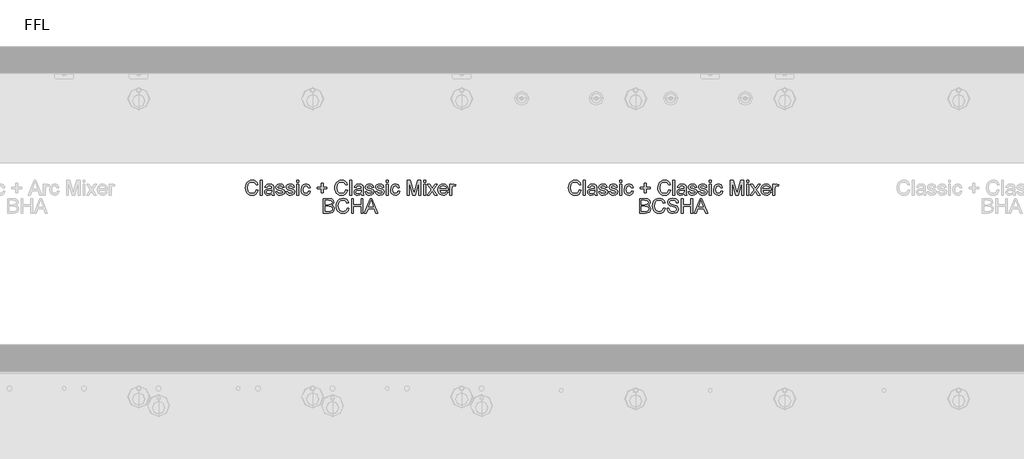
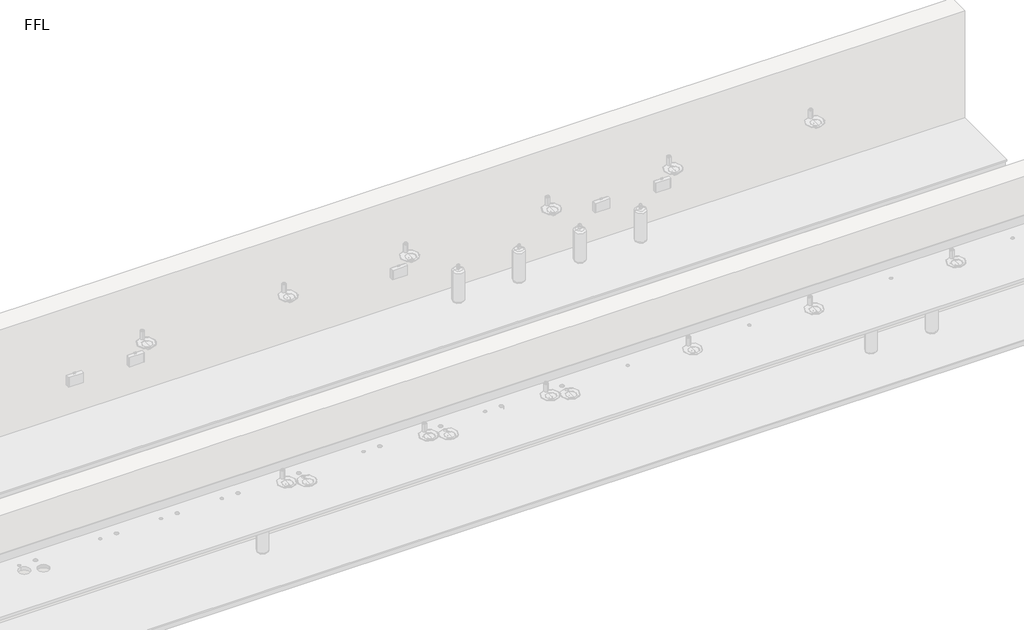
# One storey, part 10 of 13: 2 proxies.
"""IFC4 building model written with IfcOpenShell, lengths in millimetres."""

from ifc_helpers import new_model, si_unit, origin, origin_with_axes, place, context, project, spatial, polyline, outline, extrude, element, save

model = new_model("IFC4")

# Units and contexts
model_context = context("Model", 3, world=origin())
ifc_project = project(units=[si_unit("LENGTHUNIT", "METRE", prefix="MILLI")], contexts=[model_context])

# Site, building, storey
site = spatial("IfcSite", under=ifc_project)
building = spatial("IfcBuilding", under=site)
storey = spatial("IfcBuildingStorey", under=building, Name="FFL", Elevation=0.0)

# Proxies
placement = place(None, origin())
element("IfcBuildingElementProxy", 1, Name="150mm Arial", ObjectType="150mm Arial", at=placement, inside=storey, context=model_context, shape_type="SweptSolid", body=[
    extrude(outline(polyline([(3463.7273303, 3676.3018309), (3482.1888688, 3671.5422155), (3473.670239, 3650.0292948), (3460.3018496, 3634.3126482), (3442.7417534, 3624.698766), (3421.6480034, 3621.4941386), (3400.2342414, 3623.9190184), (3383.2285323, 3631.1936578), (3370.1936765, 3643.065653), (3360.6924746, 3659.2826001), (3354.8916933, 3678.3481049), (3352.9580996, 3698.7657732), (3355.1440972, 3720.3012299), (3361.70209, 3738.8979847), (3372.2895299, 3753.9655929), (3386.5638688, 3764.9136097), (3403.4929553, 3771.5797756), (3422.044638, 3773.8018309), (3442.286525, 3770.9262299), (3459.0218015, 3762.299427), (3471.7276308, 3748.4532732), (3479.8811765, 3729.9196193), (3461.419638, 3725.5205809), (3455.0193976, 3738.9836217), (3446.2754073, 3748.2188982), (3435.0794938, 3753.5599439), (3421.3234842, 3755.3402924), (3405.467114, 3753.3661338), (3392.4412726, 3747.4436578), (3382.5569577, 3738.1948597), (3376.1251669, 3726.2417347), (3371.419638, 3698.8018309), (3376.9905515, 3666.9989463), (3384.1119457, 3655.1224439), (3394.3343015, 3646.6804367), (3406.5894097, 3641.6368669), (3419.8090611, 3639.955677), (3435.2192174, 3642.2453405), (3448.060263, 3649.1143309), (3457.755275, 3660.4905328), (3463.7273303, 3676.3018309)])), origin_with_axes(), (0.0, 0.0, 1.0), 5.0),
    extrude(outline(polyline([(3505.2657919, 3623.8018309), (3505.2657919, 3771.4941386), (3523.7273303, 3771.4941386), (3523.7273303, 3623.8018309), (3505.2657919, 3623.8018309)])), origin_with_axes(), (0.0, 0.0, 1.0), 5.0),
    extrude(outline(polyline([(3620.6504073, 3637.6479847), (3602.747763, 3625.1359655), (3582.9701188, 3621.4941386), (3567.5419337, 3623.6846434), (3556.1612246, 3630.2561578), (3549.1434962, 3640.2351242), (3546.8042534, 3652.6479847), (3550.3379073, 3667.2513501), (3559.622763, 3677.8523117), (3572.5494457, 3683.910004), (3588.5230034, 3686.6864463), (3620.5422342, 3693.0326001), (3620.6504073, 3697.143177), (3619.3793736, 3705.3823597), (3615.5662726, 3710.7729847), (3607.0386284, 3714.7753886), (3595.1576188, 3716.1095232), (3576.4797342, 3712.5578405), (3567.5734842, 3699.955677), (3549.1119457, 3702.2633693), (3557.0987246, 3720.2922155), (3573.1804553, 3730.8571193), (3597.5374265, 3734.5710617), (3619.9112246, 3731.2898117), (3632.5494457, 3723.050629), (3638.2105034, 3710.5205809), (3639.1119457, 3694.3667347), (3639.1119457, 3671.3979847), (3640.0494457, 3639.3246674), (3643.7273303, 3623.8018309), (3625.2657919, 3623.8018309), (3620.6504073, 3637.6479847)]), holes=[polyline([(3620.6504073, 3674.5710617), (3590.8667534, 3668.910004), (3574.98334, 3665.9172155), (3567.7898303, 3661.049427), (3565.2657919, 3653.9460617), (3570.76459, 3643.9580809), (3586.9004073, 3639.955677), (3605.5782919, 3644.3727443), (3617.6215611, 3655.0638501), (3620.5422342, 3669.3426963), (3620.6504073, 3674.5710617)])]), origin_with_axes(), (0.0, 0.0, 1.0), 5.0),
    extrude(outline(polyline([(3657.5734842, 3656.1095232), (3676.0350226, 3658.4172155), (3678.9466813, 3650.5205809), (3684.5806957, 3644.7152924), (3704.1600226, 3639.955677), (3722.982138, 3644.3186578), (3729.1119457, 3654.5590424), (3722.9460803, 3662.8523117), (3703.9436765, 3668.1167347), (3676.1431957, 3677.1491867), (3664.0097823, 3687.6960617), (3659.8811765, 3702.5878886), (3663.1984842, 3716.3438982), (3672.248965, 3726.8547155), (3683.9857438, 3732.3174559), (3699.8691573, 3734.5710617), (3722.3330996, 3730.9472636), (3736.6119457, 3721.1395713), (3742.9580996, 3704.5710617), (3724.4965611, 3702.2633693), (3717.5554553, 3712.4496674), (3701.311465, 3716.1095232), (3683.6431957, 3712.611927), (3678.342715, 3704.4628886), (3680.5422342, 3699.0902924), (3687.4292534, 3695.0157732), (3703.3306957, 3691.0854847), (3730.4280515, 3682.3955809), (3743.0121861, 3672.5518309), (3747.5734842, 3656.5061578), (3742.2189169, 3638.8378886), (3726.7681957, 3626.019379), (3703.9076188, 3621.4941386), (3685.2928351, 3623.675629), (3671.7080996, 3630.2201001), (3662.63959, 3641.0554367), (3657.5734842, 3656.1095232)])), origin_with_axes(), (0.0, 0.0, 1.0), 5.0),
    extrude(outline(polyline([(3761.419638, 3656.1095232), (3779.8811765, 3658.4172155), (3782.7928351, 3650.5205809), (3788.4268496, 3644.7152924), (3808.0061765, 3639.955677), (3826.8282919, 3644.3186578), (3832.9580996, 3654.5590424), (3826.7922342, 3662.8523117), (3807.7898303, 3668.1167347), (3779.9893496, 3677.1491867), (3767.8559361, 3687.6960617), (3763.7273303, 3702.5878886), (3767.044638, 3716.3438982), (3776.0951188, 3726.8547155), (3787.8318976, 3732.3174559), (3803.7153111, 3734.5710617), (3826.1792534, 3730.9472636), (3840.4580996, 3721.1395713), (3846.8042534, 3704.5710617), (3828.342715, 3702.2633693), (3821.4016092, 3712.4496674), (3805.1576188, 3716.1095232), (3787.4893496, 3712.611927), (3782.1888688, 3704.4628886), (3784.388388, 3699.0902924), (3791.2754073, 3695.0157732), (3807.1768496, 3691.0854847), (3834.2742053, 3682.3955809), (3846.85834, 3672.5518309), (3851.419638, 3656.5061578), (3846.0650707, 3638.8378886), (3830.6143496, 3626.019379), (3807.7537726, 3621.4941386), (3789.138989, 3623.675629), (3775.5542534, 3630.2201001), (3766.4857438, 3641.0554367), (3761.419638, 3656.1095232)])), origin_with_axes(), (0.0, 0.0, 1.0), 5.0),
    extrude(outline(polyline([(3872.1888688, 3623.8018309), (3872.1888688, 3732.2633693), (3890.6504073, 3732.2633693), (3890.6504073, 3623.8018309), (3872.1888688, 3623.8018309)])), origin_with_axes(), (0.0, 0.0, 1.0), 5.0),
    extrude(outline(polyline([(3872.1888688, 3753.0326001), (3872.1888688, 3771.4941386), (3890.6504073, 3771.4941386), (3890.6504073, 3753.0326001), (3872.1888688, 3753.0326001)])), origin_with_axes(), (0.0, 0.0, 1.0), 5.0),
    extrude(outline(polyline([(3987.5734842, 3663.0326001), (4006.0350226, 3660.7249078), (4000.8877871, 3644.3051362), (3991.2153111, 3631.8967828), (3977.9280515, 3624.0947996), (3961.936465, 3621.4941386), (3942.2985443, 3625.1224439), (3926.9424746, 3636.0073597), (3917.0311164, 3653.6711217), (3913.7273303, 3677.6359655), (3919.3703592, 3708.3030328), (3926.4917534, 3719.8009294), (3936.5698784, 3728.0085617), (3948.6266693, 3732.9304367), (3961.6840611, 3734.5710617), (3977.2835202, 3732.3174559), (3989.7549746, 3725.5566386), (3998.7017895, 3714.6491867), (4003.7273303, 3699.955677), (3985.2657919, 3697.6479847), (3976.70209, 3711.4761097), (3961.8282919, 3716.1095232), (3949.8977029, 3713.8288742), (3940.4280515, 3706.986927), (3934.2486645, 3695.2140905), (3932.1888688, 3678.1407732), (3934.2035924, 3660.8375881), (3940.247763, 3649.0241867), (3949.5461404, 3642.2228044), (3961.3234842, 3639.955677), (3970.8832799, 3641.3709415), (3978.7213207, 3645.6167347), (3984.4229433, 3652.8012299), (3987.5734842, 3663.0326001)])), origin_with_axes(), (0.0, 0.0, 1.0), 5.0),
    extrude(outline(polyline([(4116.8042534, 3646.878754), (4116.8042534, 3686.1095232), (4077.5734842, 3686.1095232), (4077.5734842, 3704.5710617), (4116.8042534, 3704.5710617), (4116.8042534, 3743.8018309), (4135.2657919, 3743.8018309), (4135.2657919, 3704.5710617), (4174.4965611, 3704.5710617), (4174.4965611, 3686.1095232), (4135.2657919, 3686.1095232), (4135.2657919, 3646.878754), (4116.8042534, 3646.878754)])), origin_with_axes(), (0.0, 0.0, 1.0), 5.0),
    extrude(outline(polyline([(4363.7273303, 3676.3018309), (4382.1888688, 3671.5422155), (4373.670239, 3650.0292948), (4360.3018496, 3634.3126482), (4342.7417534, 3624.698766), (4321.6480034, 3621.4941386), (4300.2342414, 3623.9190184), (4283.2285323, 3631.1936578), (4270.1936765, 3643.065653), (4260.6924746, 3659.2826001), (4254.8916933, 3678.3481049), (4252.9580996, 3698.7657732), (4255.1440972, 3720.3012299), (4261.70209, 3738.8979847), (4272.2895299, 3753.9655929), (4286.5638688, 3764.9136097), (4303.4929553, 3771.5797756), (4322.044638, 3773.8018309), (4342.286525, 3770.9262299), (4359.0218015, 3762.299427), (4371.7276308, 3748.4532732), (4379.8811765, 3729.9196193), (4361.419638, 3725.5205809), (4355.0193976, 3738.9836217), (4346.2754073, 3748.2188982), (4335.0794938, 3753.5599439), (4321.3234842, 3755.3402924), (4305.467114, 3753.3661338), (4292.4412726, 3747.4436578), (4282.5569577, 3738.1948597), (4276.1251669, 3726.2417347), (4271.419638, 3698.8018309), (4276.9905515, 3666.9989463), (4284.1119457, 3655.1224439), (4294.3343015, 3646.6804367), (4306.5894097, 3641.6368669), (4319.8090611, 3639.955677), (4335.2192174, 3642.2453405), (4348.060263, 3649.1143309), (4357.755275, 3660.4905328), (4363.7273303, 3676.3018309)])), origin_with_axes(), (0.0, 0.0, 1.0), 5.0),
    extrude(outline(polyline([(4405.2657919, 3623.8018309), (4405.2657919, 3771.4941386), (4423.7273303, 3771.4941386), (4423.7273303, 3623.8018309), (4405.2657919, 3623.8018309)])), origin_with_axes(), (0.0, 0.0, 1.0), 5.0),
    extrude(outline(polyline([(4520.6504073, 3637.6479847), (4502.747763, 3625.1359655), (4482.9701188, 3621.4941386), (4467.5419337, 3623.6846434), (4456.1612246, 3630.2561578), (4449.1434962, 3640.2351242), (4446.8042534, 3652.6479847), (4450.3379073, 3667.2513501), (4459.622763, 3677.8523117), (4472.5494457, 3683.910004), (4488.5230034, 3686.6864463), (4520.5422342, 3693.0326001), (4520.6504073, 3697.143177), (4519.3793736, 3705.3823597), (4515.5662726, 3710.7729847), (4507.0386284, 3714.7753886), (4495.1576188, 3716.1095232), (4476.4797342, 3712.5578405), (4467.5734842, 3699.955677), (4449.1119457, 3702.2633693), (4457.0987246, 3720.2922155), (4473.1804553, 3730.8571193), (4497.5374265, 3734.5710617), (4519.9112246, 3731.2898117), (4532.5494457, 3723.050629), (4538.2105034, 3710.5205809), (4539.1119457, 3694.3667347), (4539.1119457, 3671.3979847), (4540.0494457, 3639.3246674), (4543.7273303, 3623.8018309), (4525.2657919, 3623.8018309), (4520.6504073, 3637.6479847)]), holes=[polyline([(4520.6504073, 3674.5710617), (4490.8667534, 3668.910004), (4474.98334, 3665.9172155), (4467.7898303, 3661.049427), (4465.2657919, 3653.9460617), (4470.76459, 3643.9580809), (4486.9004073, 3639.955677), (4505.5782919, 3644.3727443), (4517.6215611, 3655.0638501), (4520.5422342, 3669.3426963), (4520.6504073, 3674.5710617)])]), origin_with_axes(), (0.0, 0.0, 1.0), 5.0),
    extrude(outline(polyline([(4557.5734842, 3656.1095232), (4576.0350226, 3658.4172155), (4578.9466813, 3650.5205809), (4584.5806957, 3644.7152924), (4604.1600226, 3639.955677), (4622.982138, 3644.3186578), (4629.1119457, 3654.5590424), (4622.9460803, 3662.8523117), (4603.9436765, 3668.1167347), (4576.1431957, 3677.1491867), (4564.0097823, 3687.6960617), (4559.8811765, 3702.5878886), (4563.1984842, 3716.3438982), (4572.248965, 3726.8547155), (4583.9857438, 3732.3174559), (4599.8691573, 3734.5710617), (4622.3330996, 3730.9472636), (4636.6119457, 3721.1395713), (4642.9580996, 3704.5710617), (4624.4965611, 3702.2633693), (4617.5554553, 3712.4496674), (4601.311465, 3716.1095232), (4583.6431957, 3712.611927), (4578.342715, 3704.4628886), (4580.5422342, 3699.0902924), (4587.4292534, 3695.0157732), (4603.3306957, 3691.0854847), (4630.4280515, 3682.3955809), (4643.0121861, 3672.5518309), (4647.5734842, 3656.5061578), (4642.2189169, 3638.8378886), (4626.7681957, 3626.019379), (4603.9076188, 3621.4941386), (4585.2928351, 3623.675629), (4571.7080996, 3630.2201001), (4562.63959, 3641.0554367), (4557.5734842, 3656.1095232)])), origin_with_axes(), (0.0, 0.0, 1.0), 5.0),
    extrude(outline(polyline([(4661.419638, 3656.1095232), (4679.8811765, 3658.4172155), (4682.7928351, 3650.5205809), (4688.4268496, 3644.7152924), (4708.0061765, 3639.955677), (4726.8282919, 3644.3186578), (4732.9580996, 3654.5590424), (4726.7922342, 3662.8523117), (4707.7898303, 3668.1167347), (4679.9893496, 3677.1491867), (4667.8559361, 3687.6960617), (4663.7273303, 3702.5878886), (4667.044638, 3716.3438982), (4676.0951188, 3726.8547155), (4687.8318976, 3732.3174559), (4703.7153111, 3734.5710617), (4726.1792534, 3730.9472636), (4740.4580996, 3721.1395713), (4746.8042534, 3704.5710617), (4728.342715, 3702.2633693), (4721.4016092, 3712.4496674), (4705.1576188, 3716.1095232), (4687.4893496, 3712.611927), (4682.1888688, 3704.4628886), (4684.388388, 3699.0902924), (4691.2754073, 3695.0157732), (4707.1768496, 3691.0854847), (4734.2742053, 3682.3955809), (4746.85834, 3672.5518309), (4751.419638, 3656.5061578), (4746.0650707, 3638.8378886), (4730.6143496, 3626.019379), (4707.7537726, 3621.4941386), (4689.138989, 3623.675629), (4675.5542534, 3630.2201001), (4666.4857438, 3641.0554367), (4661.419638, 3656.1095232)])), origin_with_axes(), (0.0, 0.0, 1.0), 5.0),
    extrude(outline(polyline([(4772.1888688, 3623.8018309), (4772.1888688, 3732.2633693), (4790.6504073, 3732.2633693), (4790.6504073, 3623.8018309), (4772.1888688, 3623.8018309)])), origin_with_axes(), (0.0, 0.0, 1.0), 5.0),
    extrude(outline(polyline([(4772.1888688, 3753.0326001), (4772.1888688, 3771.4941386), (4790.6504073, 3771.4941386), (4790.6504073, 3753.0326001), (4772.1888688, 3753.0326001)])), origin_with_axes(), (0.0, 0.0, 1.0), 5.0),
    extrude(outline(polyline([(4887.5734842, 3663.0326001), (4906.0350226, 3660.7249078), (4900.8877871, 3644.3051362), (4891.2153111, 3631.8967828), (4877.9280515, 3624.0947996), (4861.936465, 3621.4941386), (4842.2985443, 3625.1224439), (4826.9424746, 3636.0073597), (4817.0311164, 3653.6711217), (4813.7273303, 3677.6359655), (4819.3703592, 3708.3030328), (4826.4917534, 3719.8009294), (4836.5698784, 3728.0085617), (4848.6266693, 3732.9304367), (4861.6840611, 3734.5710617), (4877.2835202, 3732.3174559), (4889.7549746, 3725.5566386), (4898.7017895, 3714.6491867), (4903.7273303, 3699.955677), (4885.2657919, 3697.6479847), (4876.70209, 3711.4761097), (4861.8282919, 3716.1095232), (4849.8977029, 3713.8288742), (4840.4280515, 3706.986927), (4834.2486645, 3695.2140905), (4832.1888688, 3678.1407732), (4834.2035924, 3660.8375881), (4840.247763, 3649.0241867), (4849.5461404, 3642.2228044), (4861.3234842, 3639.955677), (4870.8832799, 3641.3709415), (4878.7213207, 3645.6167347), (4884.4229433, 3652.8012299), (4887.5734842, 3663.0326001)])), origin_with_axes(), (0.0, 0.0, 1.0), 5.0),
    extrude(outline(polyline([(4982.1888688, 3623.8018309), (4982.1888688, 3771.4941386), (5013.9556957, 3771.4941386), (5044.1720419, 3667.3955809), (5050.2657919, 3645.6527924), (5056.8643496, 3669.1984655), (5086.575888, 3771.4941386), (5118.342715, 3771.4941386), (5118.342715, 3623.8018309), (5099.8811765, 3623.8018309), (5099.8811765, 3753.0326001), (5062.7778111, 3623.8018309), (5037.7537726, 3623.8018309), (5000.6504073, 3753.0326001), (5000.6504073, 3623.8018309), (4982.1888688, 3623.8018309)])), origin_with_axes(), (0.0, 0.0, 1.0), 5.0),
    extrude(outline(polyline([(5148.342715, 3623.8018309), (5148.342715, 3732.2633693), (5166.8042534, 3732.2633693), (5166.8042534, 3623.8018309), (5148.342715, 3623.8018309)])), origin_with_axes(), (0.0, 0.0, 1.0), 5.0),
    extrude(outline(polyline([(5148.342715, 3753.0326001), (5148.342715, 3771.4941386), (5166.8042534, 3771.4941386), (5166.8042534, 3753.0326001), (5148.342715, 3753.0326001)])), origin_with_axes(), (0.0, 0.0, 1.0), 5.0),
    extrude(outline(polyline([(5182.9580996, 3623.8018309), (5222.405215, 3678.3210617), (5185.2657919, 3732.2633693), (5207.4773303, 3732.2633693), (5225.3980034, 3706.3018309), (5233.763388, 3694.0422155), (5241.0109842, 3704.066254), (5261.419638, 3732.2633693), (5283.6311765, 3732.2633693), (5244.6167534, 3678.3210617), (5282.1888688, 3623.8018309), (5259.9773303, 3623.8018309), (5237.3691573, 3656.5782732), (5233.2225226, 3662.5638501), (5205.169638, 3623.8018309), (5182.9580996, 3623.8018309)])), origin_with_axes(), (0.0, 0.0, 1.0), 5.0),
    extrude(outline(polyline([(5374.280215, 3656.1095232), (5392.3811765, 3653.8018309), (5385.8592414, 3640.1630088), (5375.45209, 3629.9676963), (5361.3940972, 3623.612528), (5343.919638, 3621.4941386), (5322.2579794, 3625.1494871), (5305.5903111, 3636.1155328), (5294.9623063, 3653.6801362), (5291.419638, 3677.1311578), (5294.998364, 3701.3709415), (5305.7345419, 3719.4989463), (5322.1768496, 3730.8030328), (5342.873965, 3734.5710617), (5362.9265491, 3730.8120472), (5378.9496861, 3719.535004), (5389.4559962, 3701.4430568), (5392.9580996, 3677.2393309), (5392.8499265, 3672.2633693), (5309.8811765, 3672.2633693), (5313.0767895, 3658.4442588), (5320.5001669, 3648.285004), (5331.2138087, 3642.0380088), (5344.280215, 3639.955677), (5362.3811765, 3643.8138501), (5374.280215, 3656.1095232)]), holes=[polyline([(5309.8811765, 3690.7249078), (5374.4965611, 3690.7249078), (5371.9995659, 3700.4785136), (5367.1047342, 3707.455677), (5356.341513, 3713.9460617), (5342.8018496, 3716.1095232), (5330.3574385, 3714.3832612), (5320.0674746, 3709.2044751), (5312.9145299, 3701.1320592), (5309.8811765, 3690.7249078)])]), origin_with_axes(), (0.0, 0.0, 1.0), 5.0),
    extrude(outline(polyline([(5411.419638, 3623.8018309), (5411.419638, 3732.2633693), (5427.5734842, 3732.2633693), (5427.5734842, 3716.2176963), (5439.0398303, 3731.0013501), (5450.5782919, 3734.5710617), (5469.1119457, 3728.8739463), (5462.9460803, 3712.3234655), (5449.9653111, 3716.1095232), (5439.5266092, 3712.4676963), (5432.873965, 3702.3715424), (5429.8811765, 3680.8090424), (5429.8811765, 3623.8018309), (5411.419638, 3623.8018309)])), origin_with_axes(), (0.0, 0.0, 1.0), 5.0),
    extrude(outline(polyline([(4137.5734842, 3441.4941386), (4137.5734842, 3589.1864463), (4193.9316573, 3589.1864463), (4221.5338207, 3584.8414943), (4230.8096621, 3579.3291746), (4237.8318976, 3571.4821193), (4243.7273303, 3552.5878886), (4238.7693976, 3535.3342828), (4223.7874265, 3522.2633693), (4234.2486645, 3516.800629), (4241.9785323, 3508.4893309), (4246.7516693, 3497.8793549), (4248.342715, 3485.5205809), (4243.997763, 3465.6708213), (4233.2345419, 3451.5362059), (4217.17084, 3444.0362059), (4193.498965, 3441.4941386), (4137.5734842, 3441.4941386)]), holes=[polyline([(4156.0350226, 3529.1864463), (4189.748965, 3529.1864463), (4209.436465, 3530.7729847), (4221.2814169, 3537.6059174), (4225.2657919, 3549.6311578), (4221.5518496, 3561.674427), (4210.9148303, 3568.7958213), (4187.1888688, 3570.7249078), (4156.0350226, 3570.7249078), (4156.0350226, 3529.1864463)]), polyline([(4156.0350226, 3459.955677), (4193.8955996, 3459.955677), (4207.5975226, 3460.6768309), (4219.1900707, 3464.6972636), (4226.8703592, 3472.9003886), (4229.8811765, 3485.3402924), (4226.3475226, 3499.691254), (4214.8992053, 3508.2549559), (4192.092715, 3510.7249078), (4156.0350226, 3510.7249078), (4156.0350226, 3459.955677)])]), origin_with_axes(), (0.0, 0.0, 1.0), 5.0),
    extrude(outline(polyline([(4377.5734842, 3493.9941386), (4396.0350226, 3489.2345232), (4387.5163928, 3467.7216025), (4374.1480034, 3452.0049559), (4356.5879073, 3442.3910737), (4335.4941573, 3439.1864463), (4314.0803952, 3441.6113261), (4297.0746861, 3448.8859655), (4284.0398303, 3460.7579607), (4274.5386284, 3476.9749078), (4268.7378472, 3496.0404126), (4266.8042534, 3516.4580809), (4268.990251, 3537.9935376), (4275.5482438, 3556.5902924), (4286.1356837, 3571.6579006), (4300.4100226, 3582.6059174), (4317.3391092, 3589.2720833), (4335.8907919, 3591.4941386), (4356.1326789, 3588.6185376), (4372.8679553, 3579.9917347), (4385.5737847, 3566.1455809), (4393.7273303, 3547.611927), (4375.2657919, 3543.2128886), (4368.8655515, 3556.6759294), (4360.1215611, 3565.9112059), (4348.9256476, 3571.2522516), (4335.169638, 3573.0326001), (4319.3132678, 3571.0584415), (4306.2874265, 3565.1359655), (4296.4031116, 3555.8871674), (4289.9713207, 3543.9340424), (4285.2657919, 3516.4941386), (4290.8367053, 3484.691254), (4297.9580996, 3472.8147516), (4308.1804553, 3464.3727443), (4320.4355635, 3459.3291746), (4333.655215, 3457.6479847), (4349.0653712, 3459.9376482), (4361.9064169, 3466.8066386), (4371.6014289, 3478.1828405), (4377.5734842, 3493.9941386)])), origin_with_axes(), (0.0, 0.0, 1.0), 5.0),
    extrude(outline(polyline([(4421.419638, 3441.4941386), (4421.419638, 3589.1864463), (4439.8811765, 3589.1864463), (4439.8811765, 3529.1864463), (4518.342715, 3529.1864463), (4518.342715, 3589.1864463), (4536.8042534, 3589.1864463), (4536.8042534, 3441.4941386), (4518.342715, 3441.4941386), (4518.342715, 3510.7249078), (4439.8811765, 3510.7249078), (4439.8811765, 3441.4941386), (4421.419638, 3441.4941386)])), origin_with_axes(), (0.0, 0.0, 1.0), 5.0),
    extrude(outline(polyline([(4551.9124265, 3441.4941386), (4610.8667534, 3589.1864463), (4626.5879073, 3589.1864463), (4685.5422342, 3441.4941386), (4666.0350226, 3441.4941386), (4649.123965, 3487.6479847), (4588.294638, 3487.6479847), (4571.419638, 3441.4941386), (4551.9124265, 3441.4941386)]), holes=[polyline([(4595.0734842, 3506.1095232), (4642.3811765, 3506.1095232), (4629.075888, 3542.4196193), (4618.7273303, 3570.7249078), (4609.5326188, 3545.5926963), (4595.0734842, 3506.1095232)])]), origin_with_axes(), (0.0, 0.0, 1.0), 5.0),
])
element("IfcBuildingElementProxy", 2, Name="150mm Arial", ObjectType="150mm Arial", at=placement, inside=storey, context=model_context, shape_type="SweptSolid", body=[
    extrude(outline(polyline([(6713.7273303, 3676.3018309), (6732.1888688, 3671.5422155), (6723.670239, 3650.0292948), (6710.3018496, 3634.3126482), (6692.7417534, 3624.698766), (6671.6480034, 3621.4941386), (6650.2342414, 3623.9190184), (6633.2285323, 3631.1936578), (6620.1936765, 3643.065653), (6610.6924746, 3659.2826001), (6604.8916933, 3678.3481049), (6602.9580996, 3698.7657732), (6605.1440972, 3720.3012299), (6611.70209, 3738.8979847), (6622.2895299, 3753.9655929), (6636.5638688, 3764.9136097), (6653.4929553, 3771.5797756), (6672.044638, 3773.8018309), (6692.286525, 3770.9262299), (6709.0218015, 3762.299427), (6721.7276308, 3748.4532732), (6729.8811765, 3729.9196193), (6711.419638, 3725.5205809), (6705.0193976, 3738.9836217), (6696.2754073, 3748.2188982), (6685.0794938, 3753.5599439), (6671.3234842, 3755.3402924), (6655.467114, 3753.3661338), (6642.4412726, 3747.4436578), (6632.5569577, 3738.1948597), (6626.1251669, 3726.2417347), (6621.419638, 3698.8018309), (6626.9905515, 3666.9989463), (6634.1119457, 3655.1224439), (6644.3343015, 3646.6804367), (6656.5894097, 3641.6368669), (6669.8090611, 3639.955677), (6685.2192174, 3642.2453405), (6698.060263, 3649.1143309), (6707.755275, 3660.4905328), (6713.7273303, 3676.3018309)])), origin_with_axes(), (0.0, 0.0, 1.0), 5.0),
    extrude(outline(polyline([(6755.2657919, 3623.8018309), (6755.2657919, 3771.4941386), (6773.7273303, 3771.4941386), (6773.7273303, 3623.8018309), (6755.2657919, 3623.8018309)])), origin_with_axes(), (0.0, 0.0, 1.0), 5.0),
    extrude(outline(polyline([(6870.6504073, 3637.6479847), (6852.747763, 3625.1359655), (6832.9701188, 3621.4941386), (6817.5419337, 3623.6846434), (6806.1612246, 3630.2561578), (6799.1434962, 3640.2351242), (6796.8042534, 3652.6479847), (6800.3379073, 3667.2513501), (6809.622763, 3677.8523117), (6822.5494457, 3683.910004), (6838.5230034, 3686.6864463), (6870.5422342, 3693.0326001), (6870.6504073, 3697.143177), (6869.3793736, 3705.3823597), (6865.5662726, 3710.7729847), (6857.0386284, 3714.7753886), (6845.1576188, 3716.1095232), (6826.4797342, 3712.5578405), (6817.5734842, 3699.955677), (6799.1119457, 3702.2633693), (6807.0987246, 3720.2922155), (6823.1804553, 3730.8571193), (6847.5374265, 3734.5710617), (6869.9112246, 3731.2898117), (6882.5494457, 3723.050629), (6888.2105034, 3710.5205809), (6889.1119457, 3694.3667347), (6889.1119457, 3671.3979847), (6890.0494457, 3639.3246674), (6893.7273303, 3623.8018309), (6875.2657919, 3623.8018309), (6870.6504073, 3637.6479847)]), holes=[polyline([(6870.6504073, 3674.5710617), (6840.8667534, 3668.910004), (6824.98334, 3665.9172155), (6817.7898303, 3661.049427), (6815.2657919, 3653.9460617), (6820.76459, 3643.9580809), (6836.9004073, 3639.955677), (6855.5782919, 3644.3727443), (6867.6215611, 3655.0638501), (6870.5422342, 3669.3426963), (6870.6504073, 3674.5710617)])]), origin_with_axes(), (0.0, 0.0, 1.0), 5.0),
    extrude(outline(polyline([(6907.5734842, 3656.1095232), (6926.0350226, 3658.4172155), (6928.9466813, 3650.5205809), (6934.5806957, 3644.7152924), (6954.1600226, 3639.955677), (6972.982138, 3644.3186578), (6979.1119457, 3654.5590424), (6972.9460803, 3662.8523117), (6953.9436765, 3668.1167347), (6926.1431957, 3677.1491867), (6914.0097823, 3687.6960617), (6909.8811765, 3702.5878886), (6913.1984842, 3716.3438982), (6922.248965, 3726.8547155), (6933.9857438, 3732.3174559), (6949.8691573, 3734.5710617), (6972.3330996, 3730.9472636), (6986.6119457, 3721.1395713), (6992.9580996, 3704.5710617), (6974.4965611, 3702.2633693), (6967.5554553, 3712.4496674), (6951.311465, 3716.1095232), (6933.6431957, 3712.611927), (6928.342715, 3704.4628886), (6930.5422342, 3699.0902924), (6937.4292534, 3695.0157732), (6953.3306957, 3691.0854847), (6980.4280515, 3682.3955809), (6993.0121861, 3672.5518309), (6997.5734842, 3656.5061578), (6992.2189169, 3638.8378886), (6976.7681957, 3626.019379), (6953.9076188, 3621.4941386), (6935.2928351, 3623.675629), (6921.7080996, 3630.2201001), (6912.63959, 3641.0554367), (6907.5734842, 3656.1095232)])), origin_with_axes(), (0.0, 0.0, 1.0), 5.0),
    extrude(outline(polyline([(7011.419638, 3656.1095232), (7029.8811765, 3658.4172155), (7032.7928351, 3650.5205809), (7038.4268496, 3644.7152924), (7058.0061765, 3639.955677), (7076.8282919, 3644.3186578), (7082.9580996, 3654.5590424), (7076.7922342, 3662.8523117), (7057.7898303, 3668.1167347), (7029.9893496, 3677.1491867), (7017.8559361, 3687.6960617), (7013.7273303, 3702.5878886), (7017.044638, 3716.3438982), (7026.0951188, 3726.8547155), (7037.8318976, 3732.3174559), (7053.7153111, 3734.5710617), (7076.1792534, 3730.9472636), (7090.4580996, 3721.1395713), (7096.8042534, 3704.5710617), (7078.342715, 3702.2633693), (7071.4016092, 3712.4496674), (7055.1576188, 3716.1095232), (7037.4893496, 3712.611927), (7032.1888688, 3704.4628886), (7034.388388, 3699.0902924), (7041.2754073, 3695.0157732), (7057.1768496, 3691.0854847), (7084.2742053, 3682.3955809), (7096.85834, 3672.5518309), (7101.419638, 3656.5061578), (7096.0650707, 3638.8378886), (7080.6143496, 3626.019379), (7057.7537726, 3621.4941386), (7039.138989, 3623.675629), (7025.5542534, 3630.2201001), (7016.4857438, 3641.0554367), (7011.419638, 3656.1095232)])), origin_with_axes(), (0.0, 0.0, 1.0), 5.0),
    extrude(outline(polyline([(7122.1888688, 3623.8018309), (7122.1888688, 3732.2633693), (7140.6504073, 3732.2633693), (7140.6504073, 3623.8018309), (7122.1888688, 3623.8018309)])), origin_with_axes(), (0.0, 0.0, 1.0), 5.0),
    extrude(outline(polyline([(7122.1888688, 3753.0326001), (7122.1888688, 3771.4941386), (7140.6504073, 3771.4941386), (7140.6504073, 3753.0326001), (7122.1888688, 3753.0326001)])), origin_with_axes(), (0.0, 0.0, 1.0), 5.0),
    extrude(outline(polyline([(7237.5734842, 3663.0326001), (7256.0350226, 3660.7249078), (7250.8877871, 3644.3051362), (7241.2153111, 3631.8967828), (7227.9280515, 3624.0947996), (7211.936465, 3621.4941386), (7192.2985443, 3625.1224439), (7176.9424746, 3636.0073597), (7167.0311164, 3653.6711217), (7163.7273303, 3677.6359655), (7169.3703592, 3708.3030328), (7176.4917534, 3719.8009294), (7186.5698784, 3728.0085617), (7198.6266693, 3732.9304367), (7211.6840611, 3734.5710617), (7227.2835202, 3732.3174559), (7239.7549746, 3725.5566386), (7248.7017895, 3714.6491867), (7253.7273303, 3699.955677), (7235.2657919, 3697.6479847), (7226.70209, 3711.4761097), (7211.8282919, 3716.1095232), (7199.8977029, 3713.8288742), (7190.4280515, 3706.986927), (7184.2486645, 3695.2140905), (7182.1888688, 3678.1407732), (7184.2035924, 3660.8375881), (7190.247763, 3649.0241867), (7199.5461404, 3642.2228044), (7211.3234842, 3639.955677), (7220.8832799, 3641.3709415), (7228.7213207, 3645.6167347), (7234.4229433, 3652.8012299), (7237.5734842, 3663.0326001)])), origin_with_axes(), (0.0, 0.0, 1.0), 5.0),
    extrude(outline(polyline([(7366.8042534, 3646.878754), (7366.8042534, 3686.1095232), (7327.5734842, 3686.1095232), (7327.5734842, 3704.5710617), (7366.8042534, 3704.5710617), (7366.8042534, 3743.8018309), (7385.2657919, 3743.8018309), (7385.2657919, 3704.5710617), (7424.4965611, 3704.5710617), (7424.4965611, 3686.1095232), (7385.2657919, 3686.1095232), (7385.2657919, 3646.878754), (7366.8042534, 3646.878754)])), origin_with_axes(), (0.0, 0.0, 1.0), 5.0),
    extrude(outline(polyline([(7613.7273303, 3676.3018309), (7632.1888688, 3671.5422155), (7623.670239, 3650.0292948), (7610.3018496, 3634.3126482), (7592.7417534, 3624.698766), (7571.6480034, 3621.4941386), (7550.2342414, 3623.9190184), (7533.2285323, 3631.1936578), (7520.1936765, 3643.065653), (7510.6924746, 3659.2826001), (7504.8916933, 3678.3481049), (7502.9580996, 3698.7657732), (7505.1440972, 3720.3012299), (7511.70209, 3738.8979847), (7522.2895299, 3753.9655929), (7536.5638688, 3764.9136097), (7553.4929553, 3771.5797756), (7572.044638, 3773.8018309), (7592.286525, 3770.9262299), (7609.0218015, 3762.299427), (7621.7276308, 3748.4532732), (7629.8811765, 3729.9196193), (7611.419638, 3725.5205809), (7605.0193976, 3738.9836217), (7596.2754073, 3748.2188982), (7585.0794938, 3753.5599439), (7571.3234842, 3755.3402924), (7555.467114, 3753.3661338), (7542.4412726, 3747.4436578), (7532.5569577, 3738.1948597), (7526.1251669, 3726.2417347), (7521.419638, 3698.8018309), (7526.9905515, 3666.9989463), (7534.1119457, 3655.1224439), (7544.3343015, 3646.6804367), (7556.5894097, 3641.6368669), (7569.8090611, 3639.955677), (7585.2192174, 3642.2453405), (7598.060263, 3649.1143309), (7607.755275, 3660.4905328), (7613.7273303, 3676.3018309)])), origin_with_axes(), (0.0, 0.0, 1.0), 5.0),
    extrude(outline(polyline([(7655.2657919, 3623.8018309), (7655.2657919, 3771.4941386), (7673.7273303, 3771.4941386), (7673.7273303, 3623.8018309), (7655.2657919, 3623.8018309)])), origin_with_axes(), (0.0, 0.0, 1.0), 5.0),
    extrude(outline(polyline([(7770.6504073, 3637.6479847), (7752.747763, 3625.1359655), (7732.9701188, 3621.4941386), (7717.5419337, 3623.6846434), (7706.1612246, 3630.2561578), (7699.1434962, 3640.2351242), (7696.8042534, 3652.6479847), (7700.3379073, 3667.2513501), (7709.622763, 3677.8523117), (7722.5494457, 3683.910004), (7738.5230034, 3686.6864463), (7770.5422342, 3693.0326001), (7770.6504073, 3697.143177), (7769.3793736, 3705.3823597), (7765.5662726, 3710.7729847), (7757.0386284, 3714.7753886), (7745.1576188, 3716.1095232), (7726.4797342, 3712.5578405), (7717.5734842, 3699.955677), (7699.1119457, 3702.2633693), (7707.0987246, 3720.2922155), (7723.1804553, 3730.8571193), (7747.5374265, 3734.5710617), (7769.9112246, 3731.2898117), (7782.5494457, 3723.050629), (7788.2105034, 3710.5205809), (7789.1119457, 3694.3667347), (7789.1119457, 3671.3979847), (7790.0494457, 3639.3246674), (7793.7273303, 3623.8018309), (7775.2657919, 3623.8018309), (7770.6504073, 3637.6479847)]), holes=[polyline([(7770.6504073, 3674.5710617), (7740.8667534, 3668.910004), (7724.98334, 3665.9172155), (7717.7898303, 3661.049427), (7715.2657919, 3653.9460617), (7720.76459, 3643.9580809), (7736.9004073, 3639.955677), (7755.5782919, 3644.3727443), (7767.6215611, 3655.0638501), (7770.5422342, 3669.3426963), (7770.6504073, 3674.5710617)])]), origin_with_axes(), (0.0, 0.0, 1.0), 5.0),
    extrude(outline(polyline([(7807.5734842, 3656.1095232), (7826.0350226, 3658.4172155), (7828.9466813, 3650.5205809), (7834.5806957, 3644.7152924), (7854.1600226, 3639.955677), (7872.982138, 3644.3186578), (7879.1119457, 3654.5590424), (7872.9460803, 3662.8523117), (7853.9436765, 3668.1167347), (7826.1431957, 3677.1491867), (7814.0097823, 3687.6960617), (7809.8811765, 3702.5878886), (7813.1984842, 3716.3438982), (7822.248965, 3726.8547155), (7833.9857438, 3732.3174559), (7849.8691573, 3734.5710617), (7872.3330996, 3730.9472636), (7886.6119457, 3721.1395713), (7892.9580996, 3704.5710617), (7874.4965611, 3702.2633693), (7867.5554553, 3712.4496674), (7851.311465, 3716.1095232), (7833.6431957, 3712.611927), (7828.342715, 3704.4628886), (7830.5422342, 3699.0902924), (7837.4292534, 3695.0157732), (7853.3306957, 3691.0854847), (7880.4280515, 3682.3955809), (7893.0121861, 3672.5518309), (7897.5734842, 3656.5061578), (7892.2189169, 3638.8378886), (7876.7681957, 3626.019379), (7853.9076188, 3621.4941386), (7835.2928351, 3623.675629), (7821.7080996, 3630.2201001), (7812.63959, 3641.0554367), (7807.5734842, 3656.1095232)])), origin_with_axes(), (0.0, 0.0, 1.0), 5.0),
    extrude(outline(polyline([(7911.419638, 3656.1095232), (7929.8811765, 3658.4172155), (7932.7928351, 3650.5205809), (7938.4268496, 3644.7152924), (7958.0061765, 3639.955677), (7976.8282919, 3644.3186578), (7982.9580996, 3654.5590424), (7976.7922342, 3662.8523117), (7957.7898303, 3668.1167347), (7929.9893496, 3677.1491867), (7917.8559361, 3687.6960617), (7913.7273303, 3702.5878886), (7917.044638, 3716.3438982), (7926.0951188, 3726.8547155), (7937.8318976, 3732.3174559), (7953.7153111, 3734.5710617), (7976.1792534, 3730.9472636), (7990.4580996, 3721.1395713), (7996.8042534, 3704.5710617), (7978.342715, 3702.2633693), (7971.4016092, 3712.4496674), (7955.1576188, 3716.1095232), (7937.4893496, 3712.611927), (7932.1888688, 3704.4628886), (7934.388388, 3699.0902924), (7941.2754073, 3695.0157732), (7957.1768496, 3691.0854847), (7984.2742053, 3682.3955809), (7996.85834, 3672.5518309), (8001.419638, 3656.5061578), (7996.0650707, 3638.8378886), (7980.6143496, 3626.019379), (7957.7537726, 3621.4941386), (7939.138989, 3623.675629), (7925.5542534, 3630.2201001), (7916.4857438, 3641.0554367), (7911.419638, 3656.1095232)])), origin_with_axes(), (0.0, 0.0, 1.0), 5.0),
    extrude(outline(polyline([(8022.1888688, 3623.8018309), (8022.1888688, 3732.2633693), (8040.6504073, 3732.2633693), (8040.6504073, 3623.8018309), (8022.1888688, 3623.8018309)])), origin_with_axes(), (0.0, 0.0, 1.0), 5.0),
    extrude(outline(polyline([(8022.1888688, 3753.0326001), (8022.1888688, 3771.4941386), (8040.6504073, 3771.4941386), (8040.6504073, 3753.0326001), (8022.1888688, 3753.0326001)])), origin_with_axes(), (0.0, 0.0, 1.0), 5.0),
    extrude(outline(polyline([(8137.5734842, 3663.0326001), (8156.0350226, 3660.7249078), (8150.8877871, 3644.3051362), (8141.2153111, 3631.8967828), (8127.9280515, 3624.0947996), (8111.936465, 3621.4941386), (8092.2985443, 3625.1224439), (8076.9424746, 3636.0073597), (8067.0311164, 3653.6711217), (8063.7273303, 3677.6359655), (8069.3703592, 3708.3030328), (8076.4917534, 3719.8009294), (8086.5698784, 3728.0085617), (8098.6266693, 3732.9304367), (8111.6840611, 3734.5710617), (8127.2835202, 3732.3174559), (8139.7549746, 3725.5566386), (8148.7017895, 3714.6491867), (8153.7273303, 3699.955677), (8135.2657919, 3697.6479847), (8126.70209, 3711.4761097), (8111.8282919, 3716.1095232), (8099.8977029, 3713.8288742), (8090.4280515, 3706.986927), (8084.2486645, 3695.2140905), (8082.1888688, 3678.1407732), (8084.2035924, 3660.8375881), (8090.247763, 3649.0241867), (8099.5461404, 3642.2228044), (8111.3234842, 3639.955677), (8120.8832799, 3641.3709415), (8128.7213207, 3645.6167347), (8134.4229433, 3652.8012299), (8137.5734842, 3663.0326001)])), origin_with_axes(), (0.0, 0.0, 1.0), 5.0),
    extrude(outline(polyline([(8232.1888688, 3623.8018309), (8232.1888688, 3771.4941386), (8263.9556957, 3771.4941386), (8294.1720419, 3667.3955809), (8300.2657919, 3645.6527924), (8306.8643496, 3669.1984655), (8336.575888, 3771.4941386), (8368.342715, 3771.4941386), (8368.342715, 3623.8018309), (8349.8811765, 3623.8018309), (8349.8811765, 3753.0326001), (8312.7778111, 3623.8018309), (8287.7537726, 3623.8018309), (8250.6504073, 3753.0326001), (8250.6504073, 3623.8018309), (8232.1888688, 3623.8018309)])), origin_with_axes(), (0.0, 0.0, 1.0), 5.0),
    extrude(outline(polyline([(8398.342715, 3623.8018309), (8398.342715, 3732.2633693), (8416.8042534, 3732.2633693), (8416.8042534, 3623.8018309), (8398.342715, 3623.8018309)])), origin_with_axes(), (0.0, 0.0, 1.0), 5.0),
    extrude(outline(polyline([(8398.342715, 3753.0326001), (8398.342715, 3771.4941386), (8416.8042534, 3771.4941386), (8416.8042534, 3753.0326001), (8398.342715, 3753.0326001)])), origin_with_axes(), (0.0, 0.0, 1.0), 5.0),
    extrude(outline(polyline([(8432.9580996, 3623.8018309), (8472.405215, 3678.3210617), (8435.2657919, 3732.2633693), (8457.4773303, 3732.2633693), (8475.3980034, 3706.3018309), (8483.763388, 3694.0422155), (8491.0109842, 3704.066254), (8511.419638, 3732.2633693), (8533.6311765, 3732.2633693), (8494.6167534, 3678.3210617), (8532.1888688, 3623.8018309), (8509.9773303, 3623.8018309), (8487.3691573, 3656.5782732), (8483.2225226, 3662.5638501), (8455.169638, 3623.8018309), (8432.9580996, 3623.8018309)])), origin_with_axes(), (0.0, 0.0, 1.0), 5.0),
    extrude(outline(polyline([(8624.280215, 3656.1095232), (8642.3811765, 3653.8018309), (8635.8592414, 3640.1630088), (8625.45209, 3629.9676963), (8611.3940972, 3623.612528), (8593.919638, 3621.4941386), (8572.2579794, 3625.1494871), (8555.5903111, 3636.1155328), (8544.9623063, 3653.6801362), (8541.419638, 3677.1311578), (8544.998364, 3701.3709415), (8555.7345419, 3719.4989463), (8572.1768496, 3730.8030328), (8592.873965, 3734.5710617), (8612.9265491, 3730.8120472), (8628.9496861, 3719.535004), (8639.4559962, 3701.4430568), (8642.9580996, 3677.2393309), (8642.8499265, 3672.2633693), (8559.8811765, 3672.2633693), (8563.0767895, 3658.4442588), (8570.5001669, 3648.285004), (8581.2138087, 3642.0380088), (8594.280215, 3639.955677), (8612.3811765, 3643.8138501), (8624.280215, 3656.1095232)]), holes=[polyline([(8559.8811765, 3690.7249078), (8624.4965611, 3690.7249078), (8621.9995659, 3700.4785136), (8617.1047342, 3707.455677), (8606.341513, 3713.9460617), (8592.8018496, 3716.1095232), (8580.3574385, 3714.3832612), (8570.0674746, 3709.2044751), (8562.9145299, 3701.1320592), (8559.8811765, 3690.7249078)])]), origin_with_axes(), (0.0, 0.0, 1.0), 5.0),
    extrude(outline(polyline([(8661.419638, 3623.8018309), (8661.419638, 3732.2633693), (8677.5734842, 3732.2633693), (8677.5734842, 3716.2176963), (8689.0398303, 3731.0013501), (8700.5782919, 3734.5710617), (8719.1119457, 3728.8739463), (8712.9460803, 3712.3234655), (8699.9653111, 3716.1095232), (8689.5266092, 3712.4676963), (8682.873965, 3702.3715424), (8679.8811765, 3680.8090424), (8679.8811765, 3623.8018309), (8661.419638, 3623.8018309)])), origin_with_axes(), (0.0, 0.0, 1.0), 5.0),
    extrude(outline(polyline([(7319.4965611, 3441.4941386), (7319.4965611, 3589.1864463), (7375.8547342, 3589.1864463), (7403.4568976, 3584.8414943), (7412.732739, 3579.3291746), (7419.7549746, 3571.4821193), (7425.6504073, 3552.5878886), (7420.6924746, 3535.3342828), (7405.7105034, 3522.2633693), (7416.1717414, 3516.800629), (7423.9016092, 3508.4893309), (7428.6747462, 3497.8793549), (7430.2657919, 3485.5205809), (7425.92084, 3465.6708213), (7415.1576188, 3451.5362059), (7399.0939169, 3444.0362059), (7375.4220419, 3441.4941386), (7319.4965611, 3441.4941386)]), holes=[polyline([(7337.9580996, 3529.1864463), (7371.6720419, 3529.1864463), (7391.3595419, 3530.7729847), (7403.2044938, 3537.6059174), (7407.1888688, 3549.6311578), (7403.4749265, 3561.674427), (7392.8379073, 3568.7958213), (7369.1119457, 3570.7249078), (7337.9580996, 3570.7249078), (7337.9580996, 3529.1864463)]), polyline([(7337.9580996, 3459.955677), (7375.8186765, 3459.955677), (7389.5205996, 3460.6768309), (7401.1131476, 3464.6972636), (7408.7934361, 3472.9003886), (7411.8042534, 3485.3402924), (7408.2705996, 3499.691254), (7396.8222823, 3508.2549559), (7374.0157919, 3510.7249078), (7337.9580996, 3510.7249078), (7337.9580996, 3459.955677)])]), origin_with_axes(), (0.0, 0.0, 1.0), 5.0),
    extrude(outline(polyline([(7559.4965611, 3493.9941386), (7577.9580996, 3489.2345232), (7569.4394698, 3467.7216025), (7556.0710803, 3452.0049559), (7538.5109842, 3442.3910737), (7517.4172342, 3439.1864463), (7496.0034722, 3441.6113261), (7478.997763, 3448.8859655), (7465.9629073, 3460.7579607), (7456.4617053, 3476.9749078), (7450.6609241, 3496.0404126), (7448.7273303, 3516.4580809), (7450.9133279, 3537.9935376), (7457.4713207, 3556.5902924), (7468.0587606, 3571.6579006), (7482.3330996, 3582.6059174), (7499.2621861, 3589.2720833), (7517.8138688, 3591.4941386), (7538.0557558, 3588.6185376), (7554.7910323, 3579.9917347), (7567.4968616, 3566.1455809), (7575.6504073, 3547.611927), (7557.1888688, 3543.2128886), (7550.7886284, 3556.6759294), (7542.044638, 3565.9112059), (7530.8487246, 3571.2522516), (7517.092715, 3573.0326001), (7501.2363448, 3571.0584415), (7488.2105034, 3565.1359655), (7478.3261885, 3555.8871674), (7471.8943976, 3543.9340424), (7467.1888688, 3516.4941386), (7472.7597823, 3484.691254), (7479.8811765, 3472.8147516), (7490.1035323, 3464.3727443), (7502.3586404, 3459.3291746), (7515.5782919, 3457.6479847), (7530.9884481, 3459.9376482), (7543.8294938, 3466.8066386), (7553.5245058, 3478.1828405), (7559.4965611, 3493.9941386)])), origin_with_axes(), (0.0, 0.0, 1.0), 5.0),
    extrude(outline(polyline([(7596.419638, 3492.2633693), (7614.8811765, 3492.2633693), (7620.8306957, 3473.783802), (7635.3619457, 3462.1011097), (7657.5013688, 3457.6479847), (7676.7922342, 3461.019379), (7689.2501669, 3470.2862059), (7693.342715, 3482.6720232), (7690.2778111, 3494.1924559), (7677.7297342, 3502.5758693), (7650.8487246, 3509.6251482), (7621.9124265, 3518.7297155), (7606.2093015, 3532.4676963), (7601.0350226, 3550.8210617), (7602.6350827, 3561.6338621), (7607.435263, 3571.7164943), (7615.3093616, 3580.2621674), (7626.1311765, 3586.4640905), (7653.498965, 3591.4941386), (7682.7056957, 3586.2297155), (7693.9016092, 3579.7303165), (7702.1768496, 3570.7609655), (7707.4142294, 3559.8805568), (7709.4965611, 3547.6479847), (7691.0350226, 3547.6479847), (7687.6455996, 3558.6636097), (7680.5782919, 3566.6143309), (7669.5356236, 3571.4280328), (7654.2201188, 3573.0326001), (7638.5440371, 3571.4460617), (7627.7898303, 3566.6864463), (7621.5698784, 3559.6822395), (7619.4965611, 3551.361927), (7620.9659121, 3544.2675761), (7625.373965, 3538.5614463), (7655.5181957, 3528.2489463), (7688.186465, 3518.9821193), (7698.7108039, 3512.284403), (7706.0530515, 3504.018177), (7711.8042534, 3483.1407732), (7710.1501068, 3471.7600641), (7705.1876669, 3461.0554367), (7697.1197582, 3451.8426963), (7686.1492053, 3444.9376482), (7658.2225226, 3439.1864463), (7640.1350827, 3440.736927), (7625.247763, 3445.3883693), (7613.3892895, 3453.158802), (7604.388388, 3464.066254), (7598.6101428, 3477.3535136), (7596.419638, 3492.2633693)])), origin_with_axes(), (0.0, 0.0, 1.0), 5.0),
    extrude(outline(polyline([(7739.4965611, 3441.4941386), (7739.4965611, 3589.1864463), (7757.9580996, 3589.1864463), (7757.9580996, 3529.1864463), (7836.419638, 3529.1864463), (7836.419638, 3589.1864463), (7854.8811765, 3589.1864463), (7854.8811765, 3441.4941386), (7836.419638, 3441.4941386), (7836.419638, 3510.7249078), (7757.9580996, 3510.7249078), (7757.9580996, 3441.4941386), (7739.4965611, 3441.4941386)])), origin_with_axes(), (0.0, 0.0, 1.0), 5.0),
    extrude(outline(polyline([(7869.9893496, 3441.4941386), (7928.9436765, 3589.1864463), (7944.6648303, 3589.1864463), (8003.6191573, 3441.4941386), (7984.1119457, 3441.4941386), (7967.200888, 3487.6479847), (7906.3715611, 3487.6479847), (7889.4965611, 3441.4941386), (7869.9893496, 3441.4941386)]), holes=[polyline([(7913.1504073, 3506.1095232), (7960.4580996, 3506.1095232), (7947.1528111, 3542.4196193), (7936.8042534, 3570.7249078), (7927.6095419, 3545.5926963), (7913.1504073, 3506.1095232)])]), origin_with_axes(), (0.0, 0.0, 1.0), 5.0),
])

save(model, "model.ifc")
